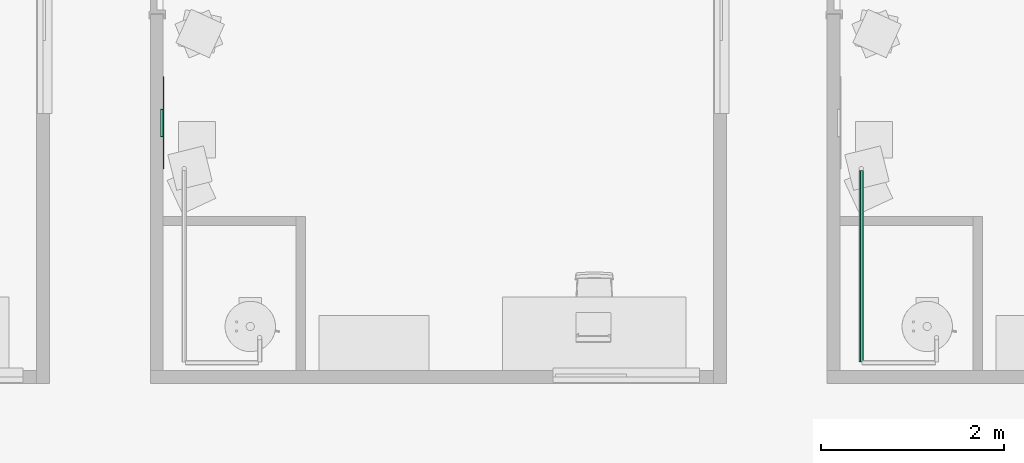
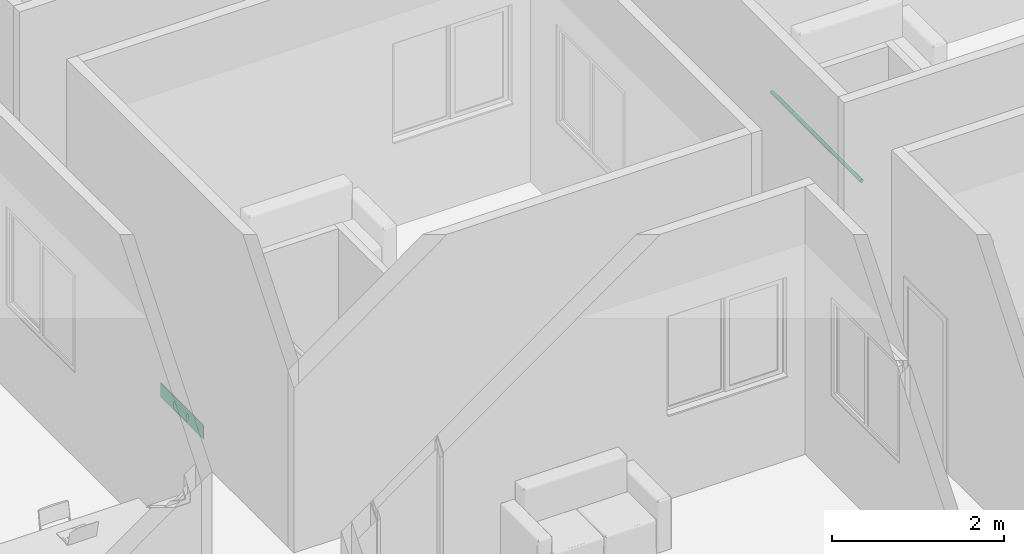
# One storey, part 21 of 69: 1 air terminal, 1 pipe segment.
"""IFC4 building model written with IfcOpenShell, lengths in centimetres."""

from ifc_helpers import new_model, entity, si_unit, converted_unit, derived_unit, direction, frame, origin, place, context, subcontext, project, spatial, arc, indexed_curve, outline, extrude, source, transform, mapped, material, constituent, constituent_set, type_object, type_shapes, element, save


model = new_model("IFC4")

# Units and contexts
model_context = context("Model", 3, precision=0.001, world=origin(), true_north=direction((6.123233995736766e-17, 1.0)))
body_context = subcontext(model_context, "Body", "Model", "MODEL_VIEW")
ifc_project = project(units=[si_unit("LENGTHUNIT", "METRE", prefix="CENTI"), si_unit("AREAUNIT", "SQUARE_METRE"), si_unit("VOLUMEUNIT", "CUBIC_METRE"), derived_unit("THERMALTRANSMITTANCEUNIT", [(si_unit("MASSUNIT", "GRAM", prefix="KILO"), 1), (si_unit("THERMODYNAMICTEMPERATUREUNIT", "KELVIN"), -1), (si_unit("TIMEUNIT", "SECOND"), -3)]), converted_unit("PLANEANGLEUNIT", "DEGREE", entity("IfcPlaneAngleMeasure", 0.017453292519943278), si_unit("PLANEANGLEUNIT", "RADIAN"), dimensions=[0, 0, 0, 0, 0, 0, 0]), derived_unit("MASSDENSITYUNIT", [(si_unit("MASSUNIT", "GRAM", prefix="KILO"), 1), (si_unit("LENGTHUNIT", "METRE"), -3)]), derived_unit("VAPORPERMEABILITYUNIT", [(si_unit("LENGTHUNIT", "METRE"), -1), (si_unit("TIMEUNIT", "SECOND"), 1)]), derived_unit("USERDEFINED", [(si_unit("MASSUNIT", "GRAM", prefix="KILO"), 1), (si_unit("TIMEUNIT", "SECOND"), -3), (si_unit("LENGTHUNIT", "METRE"), 3), (si_unit("ELECTRICCURRENTUNIT", "AMPERE"), -2)]), derived_unit("SPECIFICHEATCAPACITYUNIT", [(si_unit("THERMODYNAMICTEMPERATUREUNIT", "KELVIN"), -1), (si_unit("LENGTHUNIT", "METRE"), 2), (si_unit("TIMEUNIT", "SECOND"), -2)]), derived_unit("THERMALCONDUCTANCEUNIT", [(si_unit("MASSUNIT", "GRAM", prefix="KILO"), 1), (si_unit("THERMODYNAMICTEMPERATUREUNIT", "KELVIN"), -1), (si_unit("TIMEUNIT", "SECOND"), -3), (si_unit("LENGTHUNIT", "METRE"), 1)]), si_unit("PRESSUREUNIT", "PASCAL"), derived_unit("MODULUSOFELASTICITYUNIT", [(si_unit("MASSUNIT", "GRAM", prefix="KILO"), 1), (si_unit("LENGTHUNIT", "METRE"), -1), (si_unit("TIMEUNIT", "SECOND"), -2)]), derived_unit("THERMALEXPANSIONCOEFFICIENTUNIT", [(si_unit("THERMODYNAMICTEMPERATUREUNIT", "KELVIN"), -1)])], contexts=[model_context])

# Site, building, storey, space
site_placement = place(None, origin())
site = spatial("IfcSite", under=ifc_project, at=site_placement, Name="Default", CompositionType="ELEMENT")
building_placement = place(site_placement, origin())
building = spatial("IfcBuilding", under=site, at=building_placement, Name="IDS Escape Game Building", CompositionType="ELEMENT")
storey_placement = place(building_placement, origin())
storey = spatial("IfcBuildingStorey", under=building, at=storey_placement, Name="00_Ground Floor", CompositionType="ELEMENT", Elevation=0.0)
space_placement = place(storey_placement, origin())
space = spatial("IfcSpace", under=storey, at=space_placement, Name="11", CompositionType="ELEMENT", PredefinedType="NOTDEFINED")

# Air terminal
ifc_material_1 = material(Name="TB_LVC_referentievlak_00_gen_BERSnl", Category="BE Default")
ifc_constituent_1 = constituent(ifc_material_1, Name="TB_LVC_referentievlak_00_gen_BERSnl", Category="BE Default", fraction=0.00014157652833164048)
ifc_material_2 = material(Name="ARC_FME.h2_staal_00_gen_BERSnl", Category="h - metaal")
ifc_constituent_2 = constituent(ifc_material_2, Name="ARC_FME.h2_staal_00_gen_BERSnl", Category="h - metaal", fraction=0.9998584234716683)
ifc_constituent_set_1 = constituent_set(constituents=[ifc_constituent_1, ifc_constituent_2])
ifc_constituent_3 = constituent(ifc_material_1, Name="BE Referentievlak", Category="BE Default", fraction=0.00014157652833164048)
ifc_constituent_4 = constituent(ifc_material_2, Name="Terminals", Category="h - metaal", fraction=0.9998584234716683)
ifc_constituent_set_2 = constituent_set(constituents=[ifc_constituent_3, ifc_constituent_4])
air_terminal_type = type_object("IfcAirTerminalType", Name="TB_57_AIR_FB_aanzuigrooster - 1 rechthoekige aansluiting - calculated flow_gen_BERSnl:Air Terminal - Exhaust", PredefinedType="GRILLE", material=ifc_constituent_set_2)
shared_shape = source(origin(), body_context, "Body", "SweptSolid", [
    extrude(outline(indexed_curve([(-0.5, -2.0290176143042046e-15), (6.8507733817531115e-16, -0.5000000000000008), (0.5, 2.0290176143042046e-15), (-5.361679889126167e-16, 0.49999999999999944)], segments=[arc(1, 2, 3), arc(3, 4, 1)], self_intersect=False)), frame((0.0, 0.0, 0.0), z_axis=(1.7453292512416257e-05, 0.0, 1.0), x_axis=(0.0, 1.0, 0.0)), (0.0, 0.0, 1.0), 0.09999999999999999),
    extrude(outline(indexed_curve([(-14.900000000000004, -4.9), (14.900000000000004, -4.9), (14.900000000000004, 4.9), (-14.900000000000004, 4.9), (-14.900000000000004, -4.9)], self_intersect=False)), frame((-4.886921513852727e-05, 0.0, -2.7999999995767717)), (0.0, 0.0, 1.0), 2.7999999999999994),
    extrude(outline(indexed_curve([(-50.0, -10.0), (50.0, -10.0), (50.0, 10.0), (-50.0, 10.0), (-50.0, -10.0)], self_intersect=False)), frame((0.0, 0.0, 0.0), z_axis=(0.0, 0.0, 1.0), x_axis=(-1.0, 0.0, 0.0)), (0.0, 0.0, 1.0), 0.6999999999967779),
])
type_shapes(air_terminal_type, [shared_shape])
air_terminal_placement = place(space_placement, frame((2221.0, 921.0, 24.0), z_axis=(1.0, 0.0, 0.0), x_axis=(0.0, 1.0, 0.0)))
element("IfcAirTerminal", 1, at=air_terminal_placement, inside=space, type_object=air_terminal_type, material=ifc_constituent_set_1, Name="TB_57_AIR_FB_aanzuigrooster - 1 rechthoekige aansluiting - calculated flow_gen_BERSnl:Air Terminal - Exhaust", ObjectType="TB_57_AIR_FB_aanzuigrooster - 1 rechthoekige aansluiting - calculated flow_gen_BERSnl:Air Terminal - Exhaust", PredefinedType="GRILLE", context=body_context, shape_type="MappedRepresentation", body=[
    mapped(shared_shape, transform((0.0, 0.0, 0.0), scale=1.0)),
])

# Pipe segment
pipe_segment_type = type_object("IfcPipeSegmentType", Name="Pipe Types:Piping Aluminum", PredefinedType="NOTDEFINED")
pipe_segment_placement = place(storey_placement, origin())
element("IfcPipeSegment", 2, at=pipe_segment_placement, inside=storey, type_object=pipe_segment_type, Name="Pipe Types:Piping Aluminum", ObjectType="Pipe Types:Piping Aluminum", PredefinedType="NOTDEFINED", context=body_context, shape_type="SweptSolid", body=[
    extrude(outline(indexed_curve([(2.412999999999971, 0.0), (1.7062486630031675, 1.7062486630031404), (0.0, 2.412999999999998), (-1.7062486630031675, 1.7062486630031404), (-2.412999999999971, 2.7071678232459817e-14), (-1.7062486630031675, -1.7062486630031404), (0.0, -2.412999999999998), (1.7062486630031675, -1.7062486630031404)], segments=[arc(1, 2, 3), arc(3, 4, 5), arc(5, 6, 7), arc(7, 8, 1)], self_intersect=False)), frame((2982.046716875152, 660.3648279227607, 242.0), z_axis=(0.0, 1.0, 0.0), x_axis=(1.0, 0.0, 0.0)), (0.0, 0.0, 1.0), 208.80000000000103),
])

save(model, "model.ifc")
